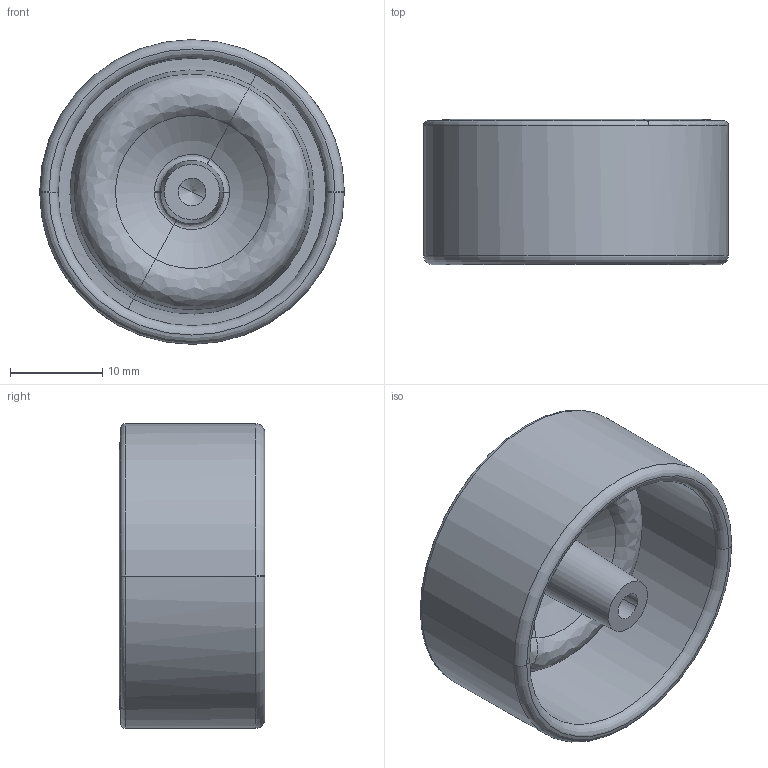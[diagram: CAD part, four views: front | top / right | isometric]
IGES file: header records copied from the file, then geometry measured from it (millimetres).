
Start section: START RECORD GO HERE.
Global section: file name: REA F1 Racing - Wheel.igs; native system: IBM CATIA IGES - CATIA Version 5 Release 19 ; preprocessor: CATIA Version 5 Release 19 ; author: Dan; organization: Sol; date: 20110822.171748; units: millimetre
Bounding box: 33 x 15.77 x 33 mm (x, y, z)
Surface area: 5486.7 mm2 (no closed solid volume)
Topology: 0 solids, 0 shells, 138 faces, 646 edges, 636 vertices
Faces by surface type: revolution 80, bspline 40, plane 18
